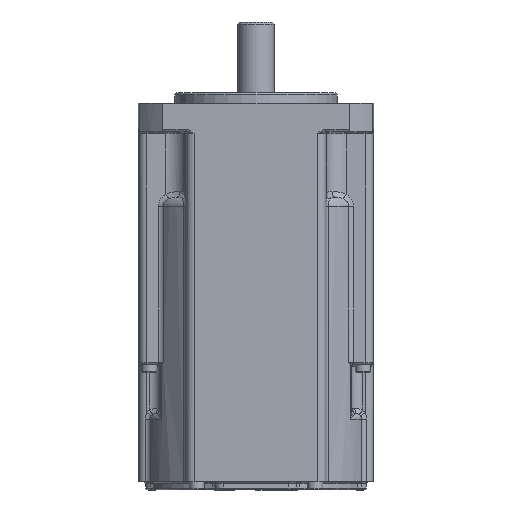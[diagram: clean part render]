
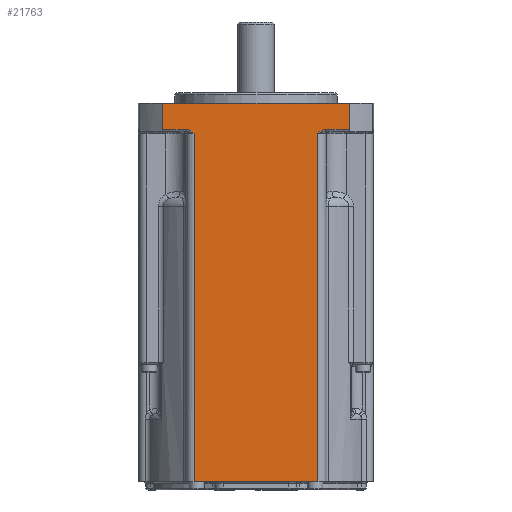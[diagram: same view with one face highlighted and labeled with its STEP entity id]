
A CAD part, front view. The second image highlights one B-rep face of the part: STEP entity #21763.
In plain terms, the highlighted planar face has unit normal (0, -1, 0).
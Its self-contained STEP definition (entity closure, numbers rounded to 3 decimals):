
#4310 = CARTESIAN_POINT ( 'NONE',  ( -15.232, -29., -8.296 ) ) ;
#4311 = CARTESIAN_POINT ( 'NONE',  ( -22.978, -29., -7.304 ) ) ;
#4324 = CARTESIAN_POINT ( 'NONE',  ( -22.978, -29., -0.8 ) ) ;
#4325 = CARTESIAN_POINT ( 'NONE',  ( 22.978, -29., -0.8 ) ) ;
#4343 = VECTOR ( 'NONE', #4352, 1000. ) ;
#4344 = CARTESIAN_POINT ( 'NONE',  ( -15.232, -29., -8.296 ) ) ;
#4345 = CARTESIAN_POINT ( 'NONE',  ( -15.525, -29., -8.056 ) ) ;
#4346 = CARTESIAN_POINT ( 'NONE',  ( -15.823, -29., -7.815 ) ) ;
#4347 = CARTESIAN_POINT ( 'NONE',  ( -16.315, -29., -7.534 ) ) ;
#4348 = CARTESIAN_POINT ( 'NONE',  ( -16.485, -29., -7.454 ) ) ;
#4349 = CARTESIAN_POINT ( 'NONE',  ( -16.847, -29., -7.339 ) ) ;
#4350 = CARTESIAN_POINT ( 'NONE',  ( -17.035, -29., -7.304 ) ) ;
#4351 = CARTESIAN_POINT ( 'NONE',  ( -17.226, -29., -7.304 ) ) ;
#4352 = DIRECTION ( 'NONE',  ( 0., 0., -1. ) ) ;
#4353 = CARTESIAN_POINT ( 'NONE',  ( -15.232, -29., -94.2 ) ) ;
#4354 = LINE ( 'NONE', #4353, #4343 ) ;
#4355 = B_SPLINE_CURVE_WITH_KNOTS ( 'NONE', 3,
 ( #4351, #4350, #4349, #4348, #4347, #4346, #4345, #4344 ),
 .UNSPECIFIED., .F., .F.,
 ( 4, 2, 2, 4 ),
 ( 0., 0.001, 0.001, 0.002 ),
 .UNSPECIFIED. ) ;
#4356 = CARTESIAN_POINT ( 'NONE',  ( -17.226, -29., -7.304 ) ) ;
#4357 = DIRECTION ( 'NONE',  ( 1., 0., 0. ) ) ;
#4358 = VECTOR ( 'NONE', #4357, 1000. ) ;
#4359 = CARTESIAN_POINT ( 'NONE',  ( -15.232, -29., -7.304 ) ) ;
#4360 = LINE ( 'NONE', #4359, #4358 ) ;
#4365 = DIRECTION ( 'NONE',  ( 1., 0., 0. ) ) ;
#4366 = DIRECTION ( 'NONE',  ( 0., -1., 0. ) ) ;
#4367 = CARTESIAN_POINT ( 'NONE',  ( -29., -29., -7.8 ) ) ;
#4368 = AXIS2_PLACEMENT_3D ( 'NONE', #4367, #4366, #4365 ) ;
#4369 = PLANE ( 'NONE',  #4368 ) ;
#4370 = CARTESIAN_POINT ( 'NONE',  ( 17.226, -29., -7.304 ) ) ;
#4371 = CARTESIAN_POINT ( 'NONE',  ( 17.035, -29., -7.304 ) ) ;
#4372 = CARTESIAN_POINT ( 'NONE',  ( 16.847, -29., -7.339 ) ) ;
#4373 = CARTESIAN_POINT ( 'NONE',  ( 16.485, -29., -7.454 ) ) ;
#4374 = CARTESIAN_POINT ( 'NONE',  ( 16.315, -29., -7.534 ) ) ;
#4375 = CARTESIAN_POINT ( 'NONE',  ( 15.823, -29., -7.815 ) ) ;
#4376 = CARTESIAN_POINT ( 'NONE',  ( 15.526, -29., -8.056 ) ) ;
#4377 = CARTESIAN_POINT ( 'NONE',  ( 15.232, -29., -8.296 ) ) ;
#4378 = FACE_OUTER_BOUND ( 'NONE', #21755, .T. ) ;
#4379 = B_SPLINE_CURVE_WITH_KNOTS ( 'NONE', 3,
 ( #4377, #4376, #4375, #4374, #4373, #4372, #4371, #4370 ),
 .UNSPECIFIED., .F., .F.,
 ( 4, 2, 2, 4 ),
 ( 0., 0.001, 0.002, 0.002 ),
 .UNSPECIFIED. ) ;
#4381 = CARTESIAN_POINT ( 'NONE',  ( 15.232, -29., -8.296 ) ) ;
#4382 = DIRECTION ( 'NONE',  ( 0., 0., 1. ) ) ;
#4383 = VECTOR ( 'NONE', #4382, 1000. ) ;
#4384 = CARTESIAN_POINT ( 'NONE',  ( 15.232, -29., -7.8 ) ) ;
#4385 = LINE ( 'NONE', #4384, #4383 ) ;
#4401 = DIRECTION ( 'NONE',  ( 0., 0., -1. ) ) ;
#4402 = VECTOR ( 'NONE', #4401, 1000. ) ;
#4403 = CARTESIAN_POINT ( 'NONE',  ( -22.978, -29., 4.953 ) ) ;
#4404 = LINE ( 'NONE', #4403, #4402 ) ;
#4405 = DIRECTION ( 'NONE',  ( -1., 0., 0. ) ) ;
#4406 = VECTOR ( 'NONE', #4405, 1000. ) ;
#4407 = CARTESIAN_POINT ( 'NONE',  ( -29., -29., -0.8 ) ) ;
#4408 = LINE ( 'NONE', #4407, #4406 ) ;
#4414 = DIRECTION ( 'NONE',  ( 1., 0., 0. ) ) ;
#4415 = VECTOR ( 'NONE', #4414, 1000. ) ;
#4416 = CARTESIAN_POINT ( 'NONE',  ( 25.277, -29., -7.304 ) ) ;
#4417 = LINE ( 'NONE', #4416, #4415 ) ;
#4469 = CARTESIAN_POINT ( 'NONE',  ( 17.226, -29., -7.304 ) ) ;
#4505 = DIRECTION ( 'NONE',  ( 0., 0., 1. ) ) ;
#4506 = VECTOR ( 'NONE', #4505, 1000. ) ;
#4507 = CARTESIAN_POINT ( 'NONE',  ( 22.978, -29., 4.953 ) ) ;
#4508 = LINE ( 'NONE', #4507, #4506 ) ;
#4509 = CARTESIAN_POINT ( 'NONE',  ( 22.978, -29., -7.304 ) ) ;
#11171 = CARTESIAN_POINT ( 'NONE',  ( -15.232, -29., -94.2 ) ) ;
#11292 = CARTESIAN_POINT ( 'NONE',  ( 15.232, -29., -94.2 ) ) ;
#11350 = LINE ( 'NONE', #11410, #11409 ) ;
#11408 = DIRECTION ( 'NONE',  ( -1., 0., 0. ) ) ;
#11409 = VECTOR ( 'NONE', #11408, 1000. ) ;
#11410 = CARTESIAN_POINT ( 'NONE',  ( -17.215, -29., -94.2 ) ) ;
#16141 = VERTEX_POINT ( 'NONE', #11171 ) ;
#16309 = VERTEX_POINT ( 'NONE', #11292 ) ;
#16398 = EDGE_CURVE ( 'NONE', #16309, #16141, #11350, .T. ) ;
#21733 = VERTEX_POINT ( 'NONE', #4325 ) ;
#21734 = ORIENTED_EDGE ( 'NONE', *, *, #21769, .T. ) ;
#21735 = VERTEX_POINT ( 'NONE', #4324 ) ;
#21737 = VERTEX_POINT ( 'NONE', #4311 ) ;
#21738 = ORIENTED_EDGE ( 'NONE', *, *, #21744, .T. ) ;
#21739 = VERTEX_POINT ( 'NONE', #4310 ) ;
#21741 = ORIENTED_EDGE ( 'NONE', *, *, #21742, .T. ) ;
#21742 = EDGE_CURVE ( 'NONE', #21737, #21743, #4360, .T. ) ;
#21743 = VERTEX_POINT ( 'NONE', #4356 ) ;
#21744 = EDGE_CURVE ( 'NONE', #21743, #21739, #4355, .T. ) ;
#21745 = ORIENTED_EDGE ( 'NONE', *, *, #21746, .T. ) ;
#21746 = EDGE_CURVE ( 'NONE', #21739, #16141, #4354, .T. ) ;
#21747 = ORIENTED_EDGE ( 'NONE', *, *, #16398, .F. ) ;
#21748 = ORIENTED_EDGE ( 'NONE', *, *, #21756, .T. ) ;
#21755 = EDGE_LOOP ( 'NONE', ( #21764, #21814, #21734, #21770, #21741, #21738, #21745, #21747, #21748, #21758 ) ) ;
#21756 = EDGE_CURVE ( 'NONE', #16309, #21757, #4385, .T. ) ;
#21757 = VERTEX_POINT ( 'NONE', #4381 ) ;
#21758 = ORIENTED_EDGE ( 'NONE', *, *, #21759, .T. ) ;
#21759 = EDGE_CURVE ( 'NONE', #21757, #21808, #4379, .T. ) ;
#21763 = ADVANCED_FACE ( 'NONE', ( #4378 ), #4369, .T. ) ;
#21764 = ORIENTED_EDGE ( 'NONE', *, *, #21765, .T. ) ;
#21765 = EDGE_CURVE ( 'NONE', #21808, #21809, #4417, .T. ) ;
#21769 = EDGE_CURVE ( 'NONE', #21733, #21735, #4408, .T. ) ;
#21770 = ORIENTED_EDGE ( 'NONE', *, *, #21771, .T. ) ;
#21771 = EDGE_CURVE ( 'NONE', #21735, #21737, #4404, .T. ) ;
#21808 = VERTEX_POINT ( 'NONE', #4469 ) ;
#21809 = VERTEX_POINT ( 'NONE', #4509 ) ;
#21810 = EDGE_CURVE ( 'NONE', #21809, #21733, #4508, .T. ) ;
#21814 = ORIENTED_EDGE ( 'NONE', *, *, #21810, .T. ) ;
